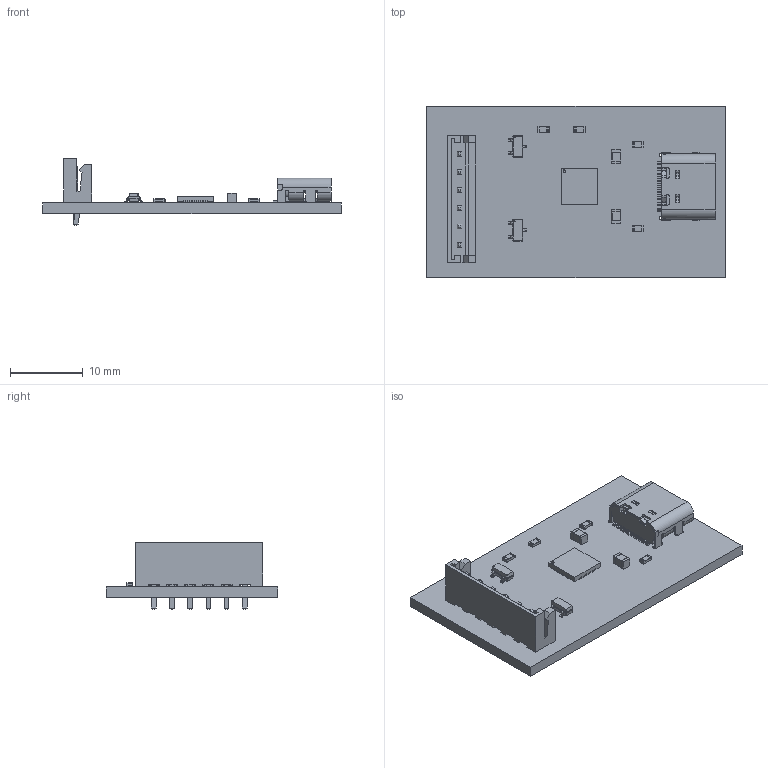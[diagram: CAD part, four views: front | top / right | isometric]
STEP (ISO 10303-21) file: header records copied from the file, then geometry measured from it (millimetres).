
FILE_DESCRIPTION(('KiCad electronic assembly'),'2;1');
FILE_NAME('Autoprogramming.step','2026-06-02T08:37:57',('Pcbnew'),( 'Kicad'),'Open CASCADE STEP processor 7.9','KiCad to STEP converter' ,'Unknown');
FILE_SCHEMA(('AUTOMOTIVE_DESIGN { 1 0 10303 214 1 1 1 1 }'));
Length unit declared in the file: millimetre
Products named in the file (9): Autoprogramming 1; SOT-23; R_0603_1608Metric; C_0805_2012Metric; TYPE-C-31-M-12; CP2102N-A02-GQFN28R; JST_EH_B6B-EH-A_1x06_P2.50mm_Vertical; Autoprogramming_PCB
Assembly tree (13 placements, depth 3):
  Autoprogramming 1
    SOT-23  x2
    R_0603_1608Metric  x4
    C_0805_2012Metric  x2
    TYPE-C-31-M-12
      TYPE-C-31-M-12
    CP2102N-A02-GQFN28R
    JST_EH_B6B-EH-A_1x06_P2.50mm_Vertical
    Autoprogramming_PCB
Bounding box: 41 x 23.5 x 9.2 mm (x, y, z)
Volume: 1747.3 mm3; surface area: 3412.4 mm2
Topology: 83 solids, 83 shells, 1513 faces, 3731 edges, 2412 vertices
Faces by surface type: plane 1165, cylinder 296, bspline 32, cone 20
Full cylindrical faces by diameter (mm): 0.6 x2, 0.95 x6
Entity records: 41696 total; most frequent: CARTESIAN_POINT 7111, ORIENTED_EDGE 6564, DIRECTION 6331, EDGE_CURVE 3282, LINE 2705, VECTOR 2705, VERTEX_POINT 2125, AXIS2_PLACEMENT_3D 1813
